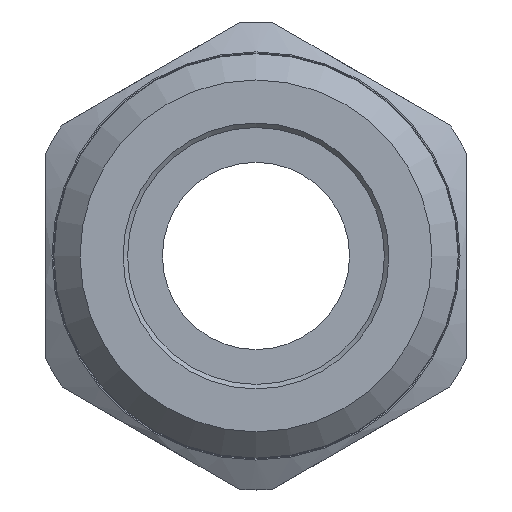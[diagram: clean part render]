
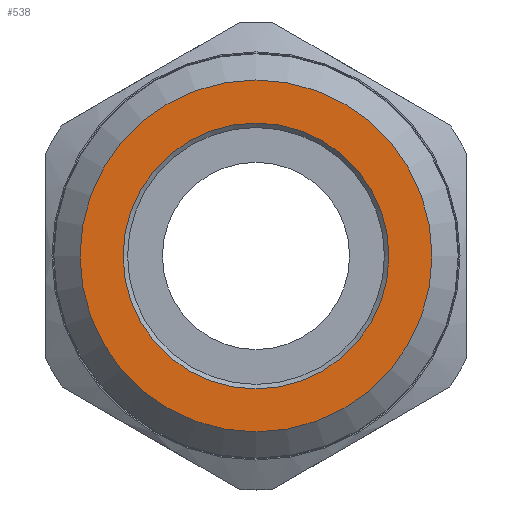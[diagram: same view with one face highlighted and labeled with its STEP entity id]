
A CAD part, front view. The second image highlights one B-rep face of the part: STEP entity #538.
In plain terms, the highlighted planar face has unit normal (0, -1, 0).
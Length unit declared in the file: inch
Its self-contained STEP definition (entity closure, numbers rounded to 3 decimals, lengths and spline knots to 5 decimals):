
#16=FACE_BOUND('',#133,.T.);
#56=CIRCLE('',#605,0.1775);
#57=CIRCLE('',#607,0.235);
#100=FACE_OUTER_BOUND('',#132,.T.);
#132=EDGE_LOOP('',(#429));
#133=EDGE_LOOP('',(#430));
#248=VERTEX_POINT('',#943);
#249=VERTEX_POINT('',#947);
#319=EDGE_CURVE('',#248,#248,#56,.T.);
#320=EDGE_CURVE('',#249,#249,#57,.T.);
#429=ORIENTED_EDGE('',*,*,#320,.F.);
#430=ORIENTED_EDGE('',*,*,#319,.F.);
#516=PLANE('',#606);
#538=ADVANCED_FACE('',(#100,#16),#516,.T.);
#605=AXIS2_PLACEMENT_3D('',#945,#736,#737);
#606=AXIS2_PLACEMENT_3D('',#946,#738,#739);
#607=AXIS2_PLACEMENT_3D('',#948,#740,#741);
#736=DIRECTION('center_axis',(0.,-1.,0.));
#737=DIRECTION('ref_axis',(0.,0.,1.));
#738=DIRECTION('center_axis',(0.,-1.,0.));
#739=DIRECTION('ref_axis',(0.,0.,-1.));
#740=DIRECTION('center_axis',(0.,1.,0.));
#741=DIRECTION('ref_axis',(0.,0.,1.));
#943=CARTESIAN_POINT('',(0.,0.,-0.1775));
#945=CARTESIAN_POINT('Origin',(0.,0.,0.));
#946=CARTESIAN_POINT('Origin',(0.,0.,-0.1715));
#947=CARTESIAN_POINT('',(0.,0.,-0.235));
#948=CARTESIAN_POINT('Origin',(0.,0.,0.));
